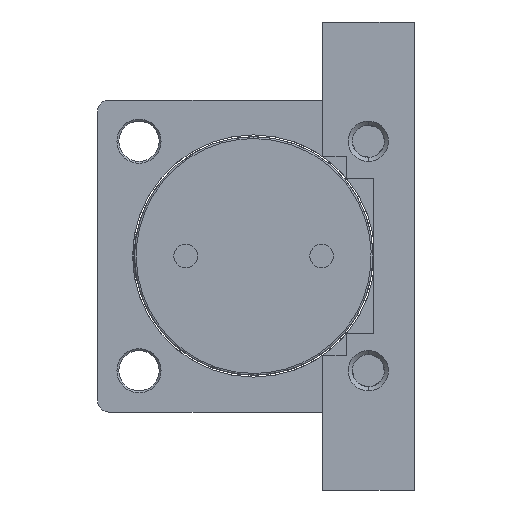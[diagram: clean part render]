
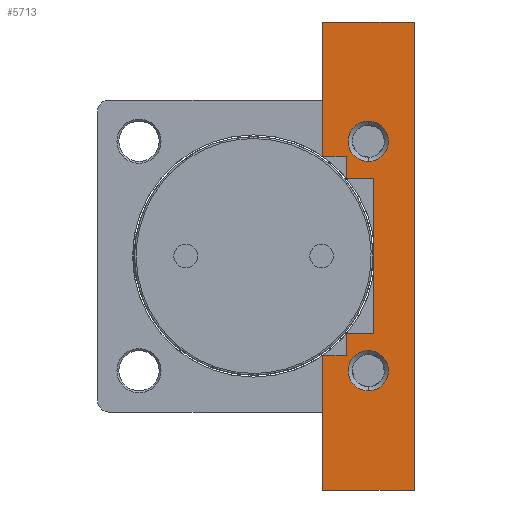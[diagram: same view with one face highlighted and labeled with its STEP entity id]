
A CAD part, left-side view. The second image highlights one B-rep face of the part: STEP entity #5713.
In plain terms, the highlighted planar face has unit normal (1, 0, 0).
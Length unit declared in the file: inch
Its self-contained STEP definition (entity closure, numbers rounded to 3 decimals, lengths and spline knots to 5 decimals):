
#48 = ORIENTED_EDGE ( 'NONE', *, *, #7137, .T. ) ;
#215 = CARTESIAN_POINT ( 'NONE',  ( -3.01181, -1.98819, 2.12598 ) ) ;
#277 = EDGE_LOOP ( 'NONE', ( #15681, #10481 ) ) ;
#408 = LINE ( 'NONE', #1085, #3938 ) ;
#461 = AXIS2_PLACEMENT_3D ( 'NONE', #6632, #6628, #6607 ) ;
#909 = EDGE_CURVE ( 'NONE', #1691, #14511, #15615, .T. ) ;
#925 = VECTOR ( 'NONE', #3129, 39.37008 ) ;
#1006 = VERTEX_POINT ( 'NONE', #7156 ) ;
#1015 = VERTEX_POINT ( 'NONE', #7099 ) ;
#1085 = CARTESIAN_POINT ( 'NONE',  ( -3.01181, -3.44488, 2.12598 ) ) ;
#1317 = ORIENTED_EDGE ( 'NONE', *, *, #5666, .F. ) ;
#1638 = DIRECTION ( 'NONE',  ( 0., 1., 0. ) ) ;
#1691 = VERTEX_POINT ( 'NONE', #3991 ) ;
#1764 = VECTOR ( 'NONE', #13170, 39.37008 ) ;
#2325 = ORIENTED_EDGE ( 'NONE', *, *, #12137, .T. ) ;
#3037 = AXIS2_PLACEMENT_3D ( 'NONE', #4968, #13483, #6196 ) ;
#3129 = DIRECTION ( 'NONE',  ( 0., -1., 0. ) ) ;
#3609 = CARTESIAN_POINT ( 'NONE',  ( -3.01181, -1.47638, 5.01969 ) ) ;
#3756 = ORIENTED_EDGE ( 'NONE', *, *, #12264, .T. ) ;
#3837 = CARTESIAN_POINT ( 'NONE',  ( -3.01181, -2.57874, 5.01969 ) ) ;
#3876 = ORIENTED_EDGE ( 'NONE', *, *, #5067, .T. ) ;
#3919 = LINE ( 'NONE', #3837, #6612 ) ;
#3938 = VECTOR ( 'NONE', #14574, 39.37008 ) ;
#3949 = VERTEX_POINT ( 'NONE', #7817 ) ;
#3990 = AXIS2_PLACEMENT_3D ( 'NONE', #6057, #6026, #6009 ) ;
#3991 = CARTESIAN_POINT ( 'NONE',  ( -3.01181, -2.46063, -2.02756 ) ) ;
#4088 = VERTEX_POINT ( 'NONE', #6957 ) ;
#4237 = EDGE_CURVE ( 'NONE', #3949, #5119, #10431, .T. ) ;
#4246 = CARTESIAN_POINT ( 'NONE',  ( -3.01181, -2.57874, -1.65354 ) ) ;
#4303 = CARTESIAN_POINT ( 'NONE',  ( -3.01181, -1.47638, 5.01969 ) ) ;
#4334 = CARTESIAN_POINT ( 'NONE',  ( -3.01181, -1.47638, -5.01969 ) ) ;
#4386 = VECTOR ( 'NONE', #15037, 39.37008 ) ;
#4427 = VERTEX_POINT ( 'NONE', #4334 ) ;
#4491 = CARTESIAN_POINT ( 'NONE',  ( -3.01181, -3.44488, -1.65354 ) ) ;
#4948 = CARTESIAN_POINT ( 'NONE',  ( -3.01181, -2.46063, -2.46063 ) ) ;
#4968 = CARTESIAN_POINT ( 'NONE',  ( -3.01181, -2.46063, 2.46063 ) ) ;
#5067 = EDGE_CURVE ( 'NONE', #7825, #5612, #8535, .T. ) ;
#5119 = VERTEX_POINT ( 'NONE', #13567 ) ;
#5159 = DIRECTION ( 'NONE',  ( 0., 0., 1. ) ) ;
#5189 = CARTESIAN_POINT ( 'NONE',  ( -3.01181, -1.98819, 5.01969 ) ) ;
#5282 = AXIS2_PLACEMENT_3D ( 'NONE', #4948, #13465, #6178 ) ;
#5612 = VERTEX_POINT ( 'NONE', #9003 ) ;
#5666 = EDGE_CURVE ( 'NONE', #7237, #1015, #7138, .T. ) ;
#5708 = ORIENTED_EDGE ( 'NONE', *, *, #15676, .T. ) ;
#5713 = ADVANCED_FACE ( 'NONE', ( #7106, #7328, #7041 ), #7029, .T. ) ;
#5869 = CARTESIAN_POINT ( 'NONE',  ( -3.01181, -1.98819, 5.01969 ) ) ;
#5927 = EDGE_LOOP ( 'NONE', ( #14097, #14029, #7088, #1317, #3756, #2325, #14687, #11859, #48, #5708, #3876, #12975 ) ) ;
#5979 = CARTESIAN_POINT ( 'NONE',  ( -3.01181, -1.47638, -2.12598 ) ) ;
#6009 = DIRECTION ( 'NONE',  ( 0., 0., 1. ) ) ;
#6026 = DIRECTION ( 'NONE',  ( -1., 0., 0. ) ) ;
#6057 = CARTESIAN_POINT ( 'NONE',  ( -3.01181, -2.46063, 2.46063 ) ) ;
#6108 = LINE ( 'NONE', #15002, #7629 ) ;
#6178 = DIRECTION ( 'NONE',  ( 0., 0., 1. ) ) ;
#6196 = DIRECTION ( 'NONE',  ( 0., 0., 1. ) ) ;
#6607 = DIRECTION ( 'NONE',  ( 0., 0., -1. ) ) ;
#6612 = VECTOR ( 'NONE', #8650, 39.37008 ) ;
#6628 = DIRECTION ( 'NONE',  ( 1., 0., 0. ) ) ;
#6632 = CARTESIAN_POINT ( 'NONE',  ( -3.01181, -3.44488, 5.01969 ) ) ;
#6819 = DIRECTION ( 'NONE',  ( 0., 0., 1. ) ) ;
#6899 = CARTESIAN_POINT ( 'NONE',  ( -3.01181, -3.44488, -2.12598 ) ) ;
#6957 = CARTESIAN_POINT ( 'NONE',  ( -3.01181, -2.46063, 2.02756 ) ) ;
#6959 = CARTESIAN_POINT ( 'NONE',  ( -3.01181, -3.44488, 5.01969 ) ) ;
#7003 = CIRCLE ( 'NONE', #3037, 0.43307 ) ;
#7029 = PLANE ( 'NONE',  #461 ) ;
#7041 = FACE_OUTER_BOUND ( 'NONE', #5927, .T. ) ;
#7088 = ORIENTED_EDGE ( 'NONE', *, *, #13267, .T. ) ;
#7099 = CARTESIAN_POINT ( 'NONE',  ( -3.01181, -3.44488, 5.01969 ) ) ;
#7106 = FACE_BOUND ( 'NONE', #10660, .T. ) ;
#7137 = EDGE_CURVE ( 'NONE', #5119, #10078, #10834, .T. ) ;
#7138 = LINE ( 'NONE', #6959, #7190 ) ;
#7156 = CARTESIAN_POINT ( 'NONE',  ( -3.01181, -2.46063, 2.8937 ) ) ;
#7190 = VECTOR ( 'NONE', #6819, 39.37008 ) ;
#7192 = ORIENTED_EDGE ( 'NONE', *, *, #8739, .T. ) ;
#7237 = VERTEX_POINT ( 'NONE', #11505 ) ;
#7328 = FACE_BOUND ( 'NONE', #277, .T. ) ;
#7629 = VECTOR ( 'NONE', #9005, 39.37008 ) ;
#7791 = CARTESIAN_POINT ( 'NONE',  ( -3.01181, -3.44488, 5.01969 ) ) ;
#7817 = CARTESIAN_POINT ( 'NONE',  ( -3.01181, -1.98819, -2.12598 ) ) ;
#7825 = VERTEX_POINT ( 'NONE', #9973 ) ;
#7834 = CARTESIAN_POINT ( 'NONE',  ( -3.01181, -3.44488, -5.01969 ) ) ;
#8189 = VECTOR ( 'NONE', #1638, 39.37008 ) ;
#8409 = VECTOR ( 'NONE', #15262, 39.37008 ) ;
#8535 = LINE ( 'NONE', #15370, #8409 ) ;
#8650 = DIRECTION ( 'NONE',  ( 0., 0., 1. ) ) ;
#8739 = EDGE_CURVE ( 'NONE', #1006, #4088, #8888, .T. ) ;
#8847 = VERTEX_POINT ( 'NONE', #5979 ) ;
#8852 = DIRECTION ( 'NONE',  ( 0., 0., 1. ) ) ;
#8858 = DIRECTION ( 'NONE',  ( -1., 0., 0. ) ) ;
#8875 = CARTESIAN_POINT ( 'NONE',  ( -3.01181, -2.46063, -2.46063 ) ) ;
#8888 = CIRCLE ( 'NONE', #3990, 0.43307 ) ;
#8923 = LINE ( 'NONE', #6899, #925 ) ;
#8989 = DIRECTION ( 'NONE',  ( 0., -1., 0. ) ) ;
#9003 = CARTESIAN_POINT ( 'NONE',  ( -3.01181, -1.98819, 1.65354 ) ) ;
#9005 = DIRECTION ( 'NONE',  ( 0., 0., 1. ) ) ;
#9320 = CIRCLE ( 'NONE', #5282, 0.43307 ) ;
#9592 = AXIS2_PLACEMENT_3D ( 'NONE', #8875, #8858, #8852 ) ;
#9973 = CARTESIAN_POINT ( 'NONE',  ( -3.01181, -2.57874, 1.65354 ) ) ;
#10078 = VERTEX_POINT ( 'NONE', #4246 ) ;
#10180 = LINE ( 'NONE', #3609, #15250 ) ;
#10431 = LINE ( 'NONE', #5189, #10449 ) ;
#10449 = VECTOR ( 'NONE', #5159, 39.37008 ) ;
#10481 = ORIENTED_EDGE ( 'NONE', *, *, #13511, .T. ) ;
#10564 = VECTOR ( 'NONE', #8989, 39.37008 ) ;
#10660 = EDGE_LOOP ( 'NONE', ( #7192, #13736 ) ) ;
#10834 = LINE ( 'NONE', #4491, #10564 ) ;
#10948 = DIRECTION ( 'NONE',  ( 0., 0., 1. ) ) ;
#11383 = LINE ( 'NONE', #7834, #8189 ) ;
#11491 = EDGE_CURVE ( 'NONE', #8847, #3949, #8923, .T. ) ;
#11505 = CARTESIAN_POINT ( 'NONE',  ( -3.01181, -3.44488, -5.01969 ) ) ;
#11859 = ORIENTED_EDGE ( 'NONE', *, *, #4237, .T. ) ;
#12137 = EDGE_CURVE ( 'NONE', #4427, #8847, #10180, .T. ) ;
#12264 = EDGE_CURVE ( 'NONE', #7237, #4427, #11383, .T. ) ;
#12643 = EDGE_CURVE ( 'NONE', #14914, #15299, #6108, .T. ) ;
#12683 = CARTESIAN_POINT ( 'NONE',  ( -3.01181, -2.46063, -2.8937 ) ) ;
#12975 = ORIENTED_EDGE ( 'NONE', *, *, #14993, .T. ) ;
#13068 = EDGE_CURVE ( 'NONE', #15710, #14914, #408, .T. ) ;
#13170 = DIRECTION ( 'NONE',  ( 0., 0., 1. ) ) ;
#13267 = EDGE_CURVE ( 'NONE', #15299, #1015, #13508, .T. ) ;
#13465 = DIRECTION ( 'NONE',  ( -1., 0., 0. ) ) ;
#13483 = DIRECTION ( 'NONE',  ( -1., 0., 0. ) ) ;
#13508 = LINE ( 'NONE', #7791, #4386 ) ;
#13511 = EDGE_CURVE ( 'NONE', #14511, #1691, #9320, .T. ) ;
#13567 = CARTESIAN_POINT ( 'NONE',  ( -3.01181, -1.98819, -1.65354 ) ) ;
#13736 = ORIENTED_EDGE ( 'NONE', *, *, #14677, .T. ) ;
#14029 = ORIENTED_EDGE ( 'NONE', *, *, #12643, .T. ) ;
#14097 = ORIENTED_EDGE ( 'NONE', *, *, #13068, .T. ) ;
#14220 = CARTESIAN_POINT ( 'NONE',  ( -3.01181, -1.47638, 2.12598 ) ) ;
#14423 = LINE ( 'NONE', #5869, #1764 ) ;
#14511 = VERTEX_POINT ( 'NONE', #12683 ) ;
#14574 = DIRECTION ( 'NONE',  ( 0., 1., 0. ) ) ;
#14677 = EDGE_CURVE ( 'NONE', #4088, #1006, #7003, .T. ) ;
#14687 = ORIENTED_EDGE ( 'NONE', *, *, #11491, .T. ) ;
#14914 = VERTEX_POINT ( 'NONE', #14220 ) ;
#14993 = EDGE_CURVE ( 'NONE', #5612, #15710, #14423, .T. ) ;
#15002 = CARTESIAN_POINT ( 'NONE',  ( -3.01181, -1.47638, 5.01969 ) ) ;
#15037 = DIRECTION ( 'NONE',  ( 0., -1., 0. ) ) ;
#15250 = VECTOR ( 'NONE', #10948, 39.37008 ) ;
#15262 = DIRECTION ( 'NONE',  ( 0., 1., 0. ) ) ;
#15299 = VERTEX_POINT ( 'NONE', #4303 ) ;
#15370 = CARTESIAN_POINT ( 'NONE',  ( -3.01181, -3.44488, 1.65354 ) ) ;
#15615 = CIRCLE ( 'NONE', #9592, 0.43307 ) ;
#15676 = EDGE_CURVE ( 'NONE', #10078, #7825, #3919, .T. ) ;
#15681 = ORIENTED_EDGE ( 'NONE', *, *, #909, .T. ) ;
#15710 = VERTEX_POINT ( 'NONE', #215 ) ;
